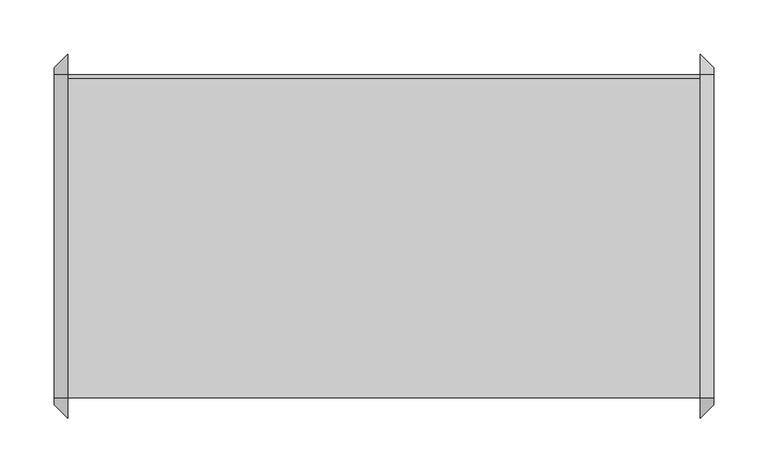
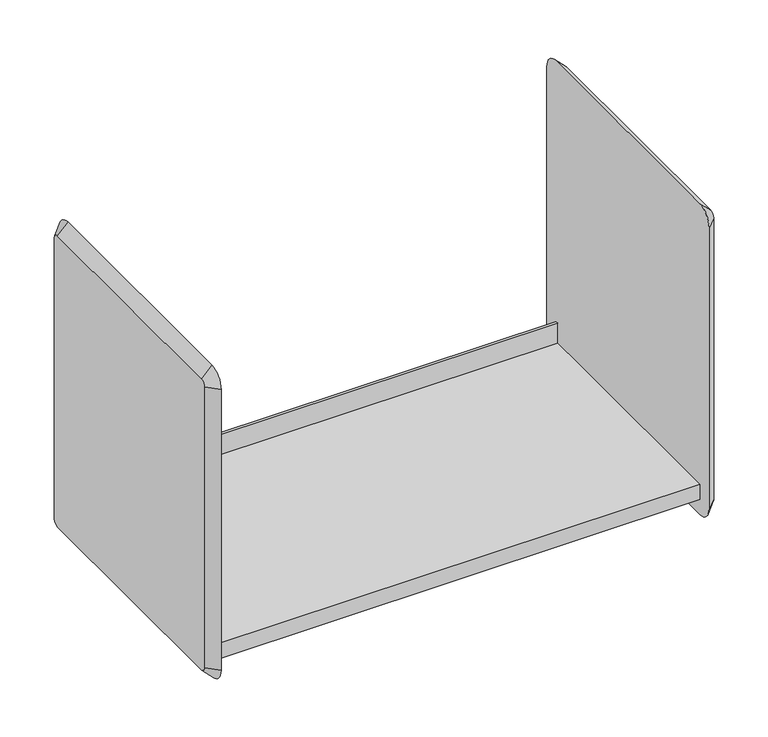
"""IFC4 building model written with IfcOpenShell, lengths in millimetres: furniture geometry."""

from ifc_helpers import new_model, si_unit, frame, origin, place, context, project, spatial, polyline, circle_curve, outline, extrude, source, transform, mapped, element, save
from ifc_brep_helpers import plane_surface, revolved_surface, advanced_brep


def furniture_c2e30911(model_context):
    return source(origin(), model_context, "Body", "SolidModel", [
        extrude(outline(polyline([(-136.525, 1752.6), (158.75, 1752.6), (158.75, 1778.0), (161.925, 1778.0), (161.925, 1733.5152313), (-136.525, 1733.5152313), (-136.525, 1752.6)])), frame((-416.0420045, 0.0, 0.0), z_axis=(1.0, 0.0, 0.0), x_axis=(0.0, 1.0, 0.0)), (0.0, 0.0, 1.0), 584.2),
        advanced_brep(
        [(180.8579955, 161.925, 2095.5), (180.8579955, -136.525, 2095.5), (180.8579955, -142.875, 2089.15), (180.8579955, -142.875, 1733.55), (180.8579955, -136.525, 1727.2), (180.8579955, 161.925, 1727.2), (180.8579955, 168.275, 1733.55), (180.8579955, 168.275, 2089.15), (168.1579955, 161.925, 2108.2), (168.1579955, 180.975, 2089.15), (168.1579955, 180.975, 1733.55), (168.1579955, 161.925, 1714.5), (168.1579955, -136.525, 1714.5), (168.1579955, -155.575, 1733.55), (168.1579955, -155.575, 2089.15), (168.1579955, -136.525, 2108.2)],
        [
            (0, 1),
            (1, 2, circle_curve(frame((180.8579955, -136.525, 2089.15), z_axis=(1.0, 0.0, 0.0), x_axis=(0.0, 0.0, 1.0)), 6.35)),
            (2, 3),
            (3, 4, circle_curve(frame((180.8579955, -136.525, 1733.55), z_axis=(1.0, 0.0, 0.0), x_axis=(0.0, -1.0, 0.0)), 6.35)),
            (4, 5),
            (5, 6, circle_curve(frame((180.8579955, 161.925, 1733.55), z_axis=(1.0, 0.0, 0.0), x_axis=(0.0, 0.0, -1.0)), 6.35)),
            (6, 7),
            (7, 0, circle_curve(frame((180.8579955, 161.925, 2089.15), z_axis=(1.0, 0.0, 0.0), x_axis=(0.0, 1.0, 0.0)), 6.35)),
            (8, 9, circle_curve(frame((168.1579955, 161.925, 2089.15), z_axis=(-1.0, 0.0, 0.0), x_axis=(0.0, 1.0, 0.0)), 19.05)),
            (9, 10),
            (10, 11, circle_curve(frame((168.1579955, 161.925, 1733.55), z_axis=(-1.0, 0.0, 0.0), x_axis=(0.0, 0.0, -1.0)), 19.05)),
            (11, 12),
            (12, 13, circle_curve(frame((168.1579955, -136.525, 1733.55), z_axis=(-1.0, 0.0, 0.0), x_axis=(0.0, -1.0, 0.0)), 19.05)),
            (13, 14),
            (14, 15, circle_curve(frame((168.1579955, -136.525, 2089.15), z_axis=(-1.0, 0.0, 0.0), x_axis=(0.0, 0.0, 1.0)), 19.05)),
            (15, 8),
            (15, 1),
            (0, 8),
            (14, 2),
            (13, 3),
            (12, 4),
            (11, 5),
            (10, 6),
            (9, 7),
        ],
        [
            plane_surface(frame((180.8579955, 12.7, 1911.35), z_axis=(1.0, 0.0, 0.0), x_axis=(0.0, -1.0, 0.0))),
            plane_surface(frame((168.1579955, 12.7, 1911.35), z_axis=(-1.0, 0.0, 0.0), x_axis=(0.0, -1.0, 0.0))),
            plane_surface(frame((168.1579955, 12.7, 2108.2), z_axis=(0.7071067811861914, 0.0, 0.7071067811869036), x_axis=(0.0, -1.0, 0.0))),
            revolved_surface(polyline([(180.8579955, -136.525, 2095.5), (168.1579955, -136.525, 2108.2)]), (187.2079955, -136.525, 2089.15), (-1.0, 0.0, 0.0)),
            plane_surface(frame((168.1579955, -155.575, 1911.35), z_axis=(0.7071067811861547, -0.7071067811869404, 0.0), x_axis=(0.0, 0.0, -1.0))),
            revolved_surface(polyline([(180.8579955, -142.87500000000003, 1733.55), (168.1579955, -155.575, 1733.55)]), (187.2079955, -136.525, 1733.55), (-1.0, 0.0, 0.0)),
            plane_surface(frame((168.1579955, 12.7, 1714.5), z_axis=(0.7071067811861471, 0.0, -0.7071067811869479), x_axis=(0.0, 1.0, 0.0))),
            revolved_surface(polyline([(180.8579955, 161.925, 1727.2), (168.1579955, 161.925, 1714.5)]), (187.2079955, 161.925, 1733.55), (-1.0, 0.0, 0.0)),
            plane_surface(frame((168.1579955, 180.975, 1911.35), z_axis=(0.7071067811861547, 0.7071067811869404, 0.0), x_axis=(0.0, 0.0, 1.0))),
            revolved_surface(polyline([(180.8579955, 168.27500000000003, 2089.15), (168.1579955, 180.975, 2089.15)]), (187.2079955, 161.925, 2089.15), (-1.0, 0.0, 0.0)),
        ],
        [
            (0, [[1, 2, 3, 4, 5, 6, 7, 8]]),
            (1, [[9, 10, 11, 12, 13, 14, 15, 16]]),
            (2, [[-16, 17, -1, 18]]),
            (3, [[-15, 19, -2, -17]]),
            (4, [[-14, 20, -3, -19]]),
            (5, [[-13, 21, -4, -20]]),
            (6, [[-12, 22, -5, -21]]),
            (7, [[-11, 23, -6, -22]]),
            (8, [[-10, 24, -7, -23]]),
            (9, [[-9, -18, -8, -24]]),
        ],
    ),
        advanced_brep(
        [(-428.7420045, -136.525, 2095.5), (-428.7420045, 161.925, 2095.5), (-428.7420045, 168.275, 2089.15), (-428.7420045, 168.275, 1733.55), (-428.7420045, 161.925, 1727.2), (-428.7420045, -136.525, 1727.2), (-428.7420045, -142.875, 1733.55), (-428.7420045, -142.875, 2089.15), (-416.0420045, -136.525, 2108.2), (-416.0420045, -155.575, 2089.15), (-416.0420045, -155.575, 1733.55), (-416.0420045, -136.525, 1714.5), (-416.0420045, 161.925, 1714.5), (-416.0420045, 180.975, 1733.55), (-416.0420045, 180.975, 2089.15), (-416.0420045, 161.925, 2108.2)],
        [
            (0, 1),
            (1, 2, circle_curve(frame((-428.7420045, 161.925, 2089.15), z_axis=(-1.0, 4.822808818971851e-12, 2.344791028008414e-12), x_axis=(2.3447760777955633e-12, 0.0, 1.0)), 6.35)),
            (2, 3),
            (3, 4, circle_curve(frame((-428.7420045, 161.925, 1733.55), z_axis=(-1.0, 1.0604850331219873e-12, 7.226219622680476e-12), x_axis=(1.060440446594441e-12, 1.0, 0.0)), 6.35)),
            (4, 5),
            (5, 6, circle_curve(frame((-428.7420045, -136.525, 1733.55), z_axis=(-1.0, 1.4002132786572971e-12, 0.0), x_axis=(0.0, 0.0, -1.0)), 6.35)),
            (6, 7),
            (7, 0, circle_curve(frame((-428.7420045, -136.525, 2089.15), z_axis=(-1.0, 0.0, 3.069544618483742e-12), x_axis=(0.0, -1.0, 0.0)), 6.35)),
            (8, 9, circle_curve(frame((-416.0420045, -136.525, 2089.15), z_axis=(1.0, 0.0, -3.069544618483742e-12), x_axis=(0.0, -1.0, 0.0)), 19.05)),
            (9, 10),
            (10, 11, circle_curve(frame((-416.0420045, -136.525, 1733.55), z_axis=(1.0, -1.4002132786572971e-12, 0.0), x_axis=(0.0, 0.0, -1.0)), 19.05)),
            (11, 12),
            (12, 13, circle_curve(frame((-416.0420045, 161.925, 1733.55), z_axis=(1.0, -1.0604850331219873e-12, -7.226219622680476e-12), x_axis=(1.060440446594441e-12, 1.0, 0.0)), 19.05)),
            (13, 14),
            (14, 15, circle_curve(frame((-416.0420045, 161.925, 2089.15), z_axis=(1.0, -4.822808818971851e-12, -2.344791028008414e-12), x_axis=(2.3447760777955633e-12, 0.0, 1.0)), 19.05)),
            (15, 8),
            (15, 1),
            (0, 8),
            (14, 2),
            (13, 3),
            (12, 4),
            (11, 5),
            (10, 6),
            (9, 7),
        ],
        [
            plane_surface(frame((-428.7420045, 12.7, 1911.35), z_axis=(-1.0, 0.0, 0.0), x_axis=(0.0, -1.0, 0.0))),
            plane_surface(frame((-416.0420045, 12.7, 1911.35), z_axis=(1.0, 0.0, 0.0), x_axis=(0.0, -1.0, 0.0))),
            plane_surface(frame((-416.0420045, 12.7, 2108.2), z_axis=(-0.7071067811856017, 0.0, 0.7071067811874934), x_axis=(0.0, 1.0, 0.0))),
            revolved_surface(polyline([(-428.74200450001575, 161.925, 2095.499999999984), (-416.04200449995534, 161.925, 2108.2000000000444)]), (-435.0920045, 161.925, 2089.15), (1.0, -4.822808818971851e-12, -2.344791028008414e-12)),
            plane_surface(frame((-416.0420045, 180.975, 1911.35), z_axis=(-0.7071067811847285, 0.7071067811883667, 0.0), x_axis=(0.0, 0.0, -1.0))),
            revolved_surface(polyline([(-428.7420045, 168.27499999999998, 1733.55), (-416.04200449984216, 180.97500000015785, 1733.55)]), (-435.0920045, 161.925, 1733.55), (1.0, -1.0604850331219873e-12, -7.226219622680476e-12)),
            plane_surface(frame((-416.0420045, 12.7, 1714.5), z_axis=(-0.7071067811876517, 0.0, -0.7071067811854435), x_axis=(0.0, -1.0, 0.0))),
            revolved_surface(polyline([(-428.7420045, -136.525, 1727.2), (-416.04200449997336, -136.525, 1714.4999999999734)]), (-435.0920045, -136.525, 1733.55), (1.0, -1.4002132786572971e-12, 0.0)),
            plane_surface(frame((-416.0420045, -155.575, 1911.35), z_axis=(-0.7071067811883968, -0.7071067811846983, 0.0), x_axis=(0.0, 0.0, 1.0))),
            revolved_surface(polyline([(-428.7420045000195, -142.8749999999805, 2089.15), (-416.0420045, -155.575, 2089.15)]), (-435.0920045, -136.525, 2089.15), (1.0, 0.0, -3.069544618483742e-12)),
        ],
        [
            (0, [[1, 2, 3, 4, 5, 6, 7, 8]]),
            (1, [[9, 10, 11, 12, 13, 14, 15, 16]]),
            (2, [[-16, 17, -1, 18]]),
            (3, [[-15, 19, -2, -17]]),
            (4, [[-14, 20, -3, -19]]),
            (5, [[-13, 21, -4, -20]]),
            (6, [[-12, 22, -5, -21]]),
            (7, [[-11, 23, -6, -22]]),
            (8, [[-10, 24, -7, -23]]),
            (9, [[-9, -18, -8, -24]]),
        ],
    ),
    ])


if __name__ == "__main__":
    model = new_model("IFC4")
    model_context = context("Model", 3, world=origin())
    ifc_project = project(units=[si_unit("LENGTHUNIT", "METRE", prefix="MILLI")], contexts=[model_context])
    site = spatial("IfcSite", under=ifc_project)
    building = spatial("IfcBuilding", under=site)
    placement = place(None, origin())
    furniture_shape = furniture_c2e30911(model_context)
    element("IfcFurniture", 1, ObjectType="HermanMiller_CoStruc_C3011_B-StyleShelf : 15-1/2\"H x 13\"D x 24\"W", at=placement, inside=building, context=model_context, shape_type="MappedRepresentation", body=[
        mapped(furniture_shape, transform((0.0, 0.0, 0.0), x_axis=(1.0, 0.0, 0.0), y_axis=(0.0, 1.0, 0.0), z_axis=(0.0, 0.0, 1.0))),
    ])
    save(model, "model.ifc")
